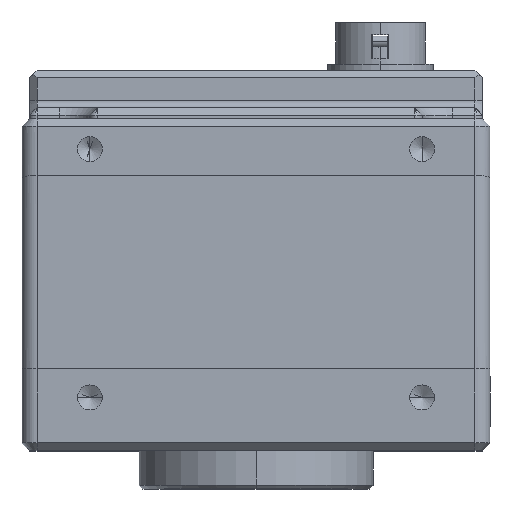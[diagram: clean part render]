
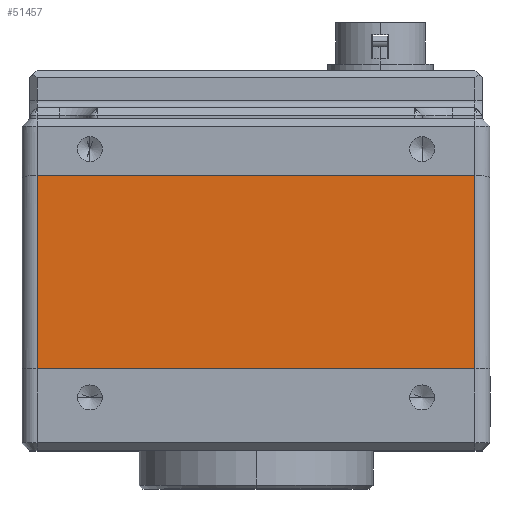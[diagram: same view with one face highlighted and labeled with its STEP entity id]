
A CAD part, top view. The second image highlights one B-rep face of the part: STEP entity #51457.
In plain terms, the highlighted planar face has unit normal (0, 0, 1).
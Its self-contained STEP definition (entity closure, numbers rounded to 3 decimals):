
#1353 = CARTESIAN_POINT ( 'NONE',  ( 50.086, 35.803, 84.535 ) ) ;
#3717 = VERTEX_POINT ( 'NONE', #28914 ) ;
#7167 = EDGE_CURVE ( 'NONE', #3717, #16825, #37094, .T. ) ;
#7665 = EDGE_CURVE ( 'NONE', #37972, #3717, #59991, .T. ) ;
#9187 = VECTOR ( 'NONE', #63215, 1000. ) ;
#14553 = CARTESIAN_POINT ( 'NONE',  ( -7.914, 35.803, 84.535 ) ) ;
#16825 = VERTEX_POINT ( 'NONE', #30137 ) ;
#16852 = DIRECTION ( 'NONE',  ( 0., 0., -1. ) ) ;
#20390 = ORIENTED_EDGE ( 'NONE', *, *, #7665, .T. ) ;
#23419 = ORIENTED_EDGE ( 'NONE', *, *, #7167, .T. ) ;
#23700 = LINE ( 'NONE', #62165, #36038 ) ;
#24168 = EDGE_CURVE ( 'NONE', #37972, #41479, #23700, .T. ) ;
#26080 = AXIS2_PLACEMENT_3D ( 'NONE', #48332, #16852, #53598 ) ;
#26940 = CARTESIAN_POINT ( 'NONE',  ( -7.914, 35.803, 84.535 ) ) ;
#28914 = CARTESIAN_POINT ( 'NONE',  ( -7.914, 10.203, 84.535 ) ) ;
#30137 = CARTESIAN_POINT ( 'NONE',  ( 50.086, 10.203, 84.535 ) ) ;
#33123 = ORIENTED_EDGE ( 'NONE', *, *, #24168, .F. ) ;
#36038 = VECTOR ( 'NONE', #51633, 1000. ) ;
#37094 = LINE ( 'NONE', #63441, #9187 ) ;
#37567 = ORIENTED_EDGE ( 'NONE', *, *, #50396, .T. ) ;
#37972 = VERTEX_POINT ( 'NONE', #14553 ) ;
#38202 = FACE_OUTER_BOUND ( 'NONE', #57012, .T. ) ;
#39907 = VECTOR ( 'NONE', #60176, 1000. ) ;
#41479 = VERTEX_POINT ( 'NONE', #1353 ) ;
#43052 = PLANE ( 'NONE',  #26080 ) ;
#46062 = VECTOR ( 'NONE', #58373, 1000. ) ;
#48332 = CARTESIAN_POINT ( 'NONE',  ( -9.914, 35.803, 84.535 ) ) ;
#50396 = EDGE_CURVE ( 'NONE', #16825, #41479, #67812, .T. ) ;
#51457 = ADVANCED_FACE ( 'NONE', ( #38202 ), #43052, .F. ) ;
#51633 = DIRECTION ( 'NONE',  ( 1., 0., 0. ) ) ;
#53598 = DIRECTION ( 'NONE',  ( -1., 0., 0. ) ) ;
#57012 = EDGE_LOOP ( 'NONE', ( #33123, #20390, #23419, #37567 ) ) ;
#58373 = DIRECTION ( 'NONE',  ( 0., -1., 0. ) ) ;
#59991 = LINE ( 'NONE', #26940, #46062 ) ;
#60176 = DIRECTION ( 'NONE',  ( 0., 1., 0. ) ) ;
#62165 = CARTESIAN_POINT ( 'NONE',  ( -9.914, 35.803, 84.535 ) ) ;
#63215 = DIRECTION ( 'NONE',  ( 1., 0., 0. ) ) ;
#63441 = CARTESIAN_POINT ( 'NONE',  ( -9.914, 10.203, 84.535 ) ) ;
#65474 = CARTESIAN_POINT ( 'NONE',  ( 50.086, 35.803, 84.535 ) ) ;
#67812 = LINE ( 'NONE', #65474, #39907 ) ;
